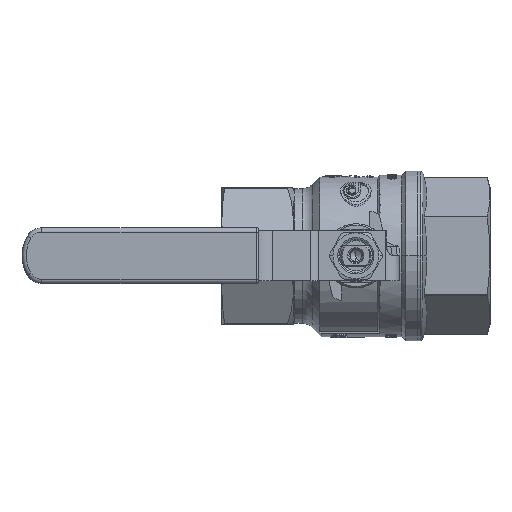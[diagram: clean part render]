
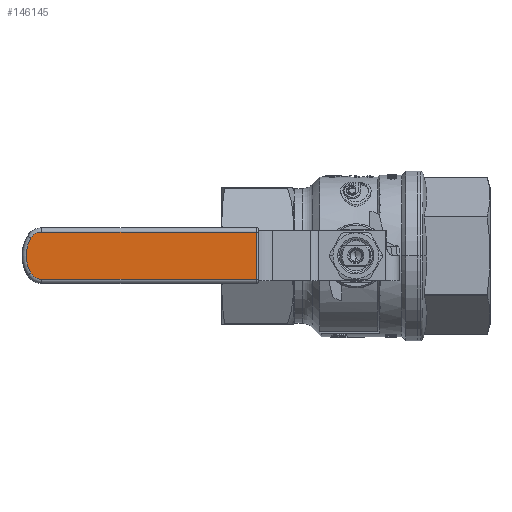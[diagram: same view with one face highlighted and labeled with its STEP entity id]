
A CAD part, top view. The second image highlights one B-rep face of the part: STEP entity #146145.
In plain terms, the highlighted planar face has unit normal (0, 0, 1).
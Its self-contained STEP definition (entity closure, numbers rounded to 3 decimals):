
#145166 = CYLINDRICAL_SURFACE('',#145167,0.7);
#145167 = AXIS2_PLACEMENT_3D('',#145168,#145169,#145170);
#145168 = CARTESIAN_POINT('',(-35.7,-17.915,44.35));
#145169 = DIRECTION('',(0.,-1.,0.));
#145170 = DIRECTION('',(0.,0.,1.));
#145666 = VERTEX_POINT('',#145667);
#145667 = CARTESIAN_POINT('',(-35.7,-18.05,45.05));
#145689 = EDGE_CURVE('',#145666,#145690,#145692,.T.);
#145690 = VERTEX_POINT('',#145691);
#145691 = CARTESIAN_POINT('',(-35.7,-35.05,45.05));
#145692 = SURFACE_CURVE('',#145693,(#145697,#145704),.PCURVE_S1.);
#145693 = LINE('',#145694,#145695);
#145694 = CARTESIAN_POINT('',(-35.7,-18.05,45.05));
#145695 = VECTOR('',#145696,1.);
#145696 = DIRECTION('',(0.,-1.,0.));
#145697 = PCURVE('',#145166,#145698);
#145698 = DEFINITIONAL_REPRESENTATION('',(#145699),#145703);
#145699 = LINE('',#145700,#145701);
#145700 = CARTESIAN_POINT('',(6.283,0.135));
#145701 = VECTOR('',#145702,1.);
#145702 = DIRECTION('',(0.,1.));
#145703 = ( GEOMETRIC_REPRESENTATION_CONTEXT(2) 
PARAMETRIC_REPRESENTATION_CONTEXT() REPRESENTATION_CONTEXT('2D SPACE',''
  ) );
#145704 = PCURVE('',#145705,#145710);
#145705 = PLANE('',#145706);
#145706 = AXIS2_PLACEMENT_3D('',#145707,#145708,#145709);
#145707 = CARTESIAN_POINT('',(-120.,-16.55,45.05));
#145708 = DIRECTION('',(0.,0.,1.));
#145709 = DIRECTION('',(0.,-1.,0.));
#145710 = DEFINITIONAL_REPRESENTATION('',(#145711),#145715);
#145711 = LINE('',#145712,#145713);
#145712 = CARTESIAN_POINT('',(1.5,84.3));
#145713 = VECTOR('',#145714,1.);
#145714 = DIRECTION('',(1.,0.));
#145715 = ( GEOMETRIC_REPRESENTATION_CONTEXT(2) 
PARAMETRIC_REPRESENTATION_CONTEXT() REPRESENTATION_CONTEXT('2D SPACE',''
  ) );
#145761 = CYLINDRICAL_SURFACE('',#145762,1.5);
#145762 = AXIS2_PLACEMENT_3D('',#145763,#145764,#145765);
#145763 = CARTESIAN_POINT('',(-113.045,-35.05,
    43.55));
#145764 = DIRECTION('',(1.,0.,0.));
#145765 = DIRECTION('',(0.,-1.,0.));
#146055 = TOROIDAL_SURFACE('',#146056,4.5,1.5);
#146056 = AXIS2_PLACEMENT_3D('',#146057,#146058,#146059);
#146057 = CARTESIAN_POINT('',(-112.928,-30.55,
    43.55));
#146058 = DIRECTION('',(0.,0.,-1.));
#146059 = DIRECTION('',(-0.882,-0.472,
    0.));
#146071 = VERTEX_POINT('',#146072);
#146072 = CARTESIAN_POINT('',(-116.825,-32.8,
    45.05));
#146087 = TOROIDAL_SURFACE('',#146088,12.5,1.5);
#146088 = AXIS2_PLACEMENT_3D('',#146089,#146090,#146091);
#146089 = CARTESIAN_POINT('',(-106.,-26.55,43.55));
#146090 = DIRECTION('',(0.,0.,1.));
#146091 = DIRECTION('',(-0.861,0.508,0.
    ));
#146101 = VERTEX_POINT('',#146102);
#146102 = CARTESIAN_POINT('',(-112.928,-35.05,
    45.05));
#146124 = EDGE_CURVE('',#146071,#146101,#146125,.T.);
#146125 = SURFACE_CURVE('',#146126,(#146131,#146138),.PCURVE_S1.);
#146126 = CIRCLE('',#146127,4.5);
#146127 = AXIS2_PLACEMENT_3D('',#146128,#146129,#146130);
#146128 = CARTESIAN_POINT('',(-112.928,-30.55,
    45.05));
#146129 = DIRECTION('',(0.,0.,1.));
#146130 = DIRECTION('',(-0.866,-0.5,0.));
#146131 = PCURVE('',#146055,#146132);
#146132 = DEFINITIONAL_REPRESENTATION('',(#146133),#146137);
#146133 = LINE('',#146134,#146135);
#146134 = CARTESIAN_POINT('',(6.251,4.712));
#146135 = VECTOR('',#146136,1.);
#146136 = DIRECTION('',(-1.,0.));
#146137 = ( GEOMETRIC_REPRESENTATION_CONTEXT(2) 
PARAMETRIC_REPRESENTATION_CONTEXT() REPRESENTATION_CONTEXT('2D SPACE',''
  ) );
#146138 = PCURVE('',#145705,#146139);
#146139 = DEFINITIONAL_REPRESENTATION('',(#146140),#146144);
#146140 = CIRCLE('',#146141,4.5);
#146141 = AXIS2_PLACEMENT_2D('',#146142,#146143);
#146142 = CARTESIAN_POINT('',(14.,7.072));
#146143 = DIRECTION('',(0.5,-0.866));
#146144 = ( GEOMETRIC_REPRESENTATION_CONTEXT(2) 
PARAMETRIC_REPRESENTATION_CONTEXT() REPRESENTATION_CONTEXT('2D SPACE',''
  ) );
#146145 = ADVANCED_FACE('',(#146146),#145705,.T.);
#146146 = FACE_BOUND('',#146147,.T.);
#146147 = EDGE_LOOP('',(#146148,#146176,#146205,#146227,#146228,#146249)
  );
#146148 = ORIENTED_EDGE('',*,*,#146149,.T.);
#146149 = EDGE_CURVE('',#145666,#146150,#146152,.T.);
#146150 = VERTEX_POINT('',#146151);
#146151 = CARTESIAN_POINT('',(-112.928,-18.05,
    45.05));
#146152 = SURFACE_CURVE('',#146153,(#146157,#146164),.PCURVE_S1.);
#146153 = LINE('',#146154,#146155);
#146154 = CARTESIAN_POINT('',(-35.7,-18.05,45.05));
#146155 = VECTOR('',#146156,1.);
#146156 = DIRECTION('',(-1.,0.,0.));
#146157 = PCURVE('',#145705,#146158);
#146158 = DEFINITIONAL_REPRESENTATION('',(#146159),#146163);
#146159 = LINE('',#146160,#146161);
#146160 = CARTESIAN_POINT('',(1.5,84.3));
#146161 = VECTOR('',#146162,1.);
#146162 = DIRECTION('',(0.,-1.));
#146163 = ( GEOMETRIC_REPRESENTATION_CONTEXT(2) 
PARAMETRIC_REPRESENTATION_CONTEXT() REPRESENTATION_CONTEXT('2D SPACE',''
  ) );
#146164 = PCURVE('',#146165,#146170);
#146165 = CYLINDRICAL_SURFACE('',#146166,1.5);
#146166 = AXIS2_PLACEMENT_3D('',#146167,#146168,#146169);
#146167 = CARTESIAN_POINT('',(-34.863,-18.05,
    43.55));
#146168 = DIRECTION('',(-1.,0.,0.));
#146169 = DIRECTION('',(0.,1.,0.));
#146170 = DEFINITIONAL_REPRESENTATION('',(#146171),#146175);
#146171 = LINE('',#146172,#146173);
#146172 = CARTESIAN_POINT('',(4.712,0.837));
#146173 = VECTOR('',#146174,1.);
#146174 = DIRECTION('',(0.,1.));
#146175 = ( GEOMETRIC_REPRESENTATION_CONTEXT(2) 
PARAMETRIC_REPRESENTATION_CONTEXT() REPRESENTATION_CONTEXT('2D SPACE',''
  ) );
#146176 = ORIENTED_EDGE('',*,*,#146177,.T.);
#146177 = EDGE_CURVE('',#146150,#146178,#146180,.T.);
#146178 = VERTEX_POINT('',#146179);
#146179 = CARTESIAN_POINT('',(-116.825,-20.3,
    45.05));
#146180 = SURFACE_CURVE('',#146181,(#146186,#146193),.PCURVE_S1.);
#146181 = CIRCLE('',#146182,4.5);
#146182 = AXIS2_PLACEMENT_3D('',#146183,#146184,#146185);
#146183 = CARTESIAN_POINT('',(-112.928,-22.55,
    45.05));
#146184 = DIRECTION('',(0.,0.,1.));
#146185 = DIRECTION('',(0.,1.,0.));
#146186 = PCURVE('',#145705,#146187);
#146187 = DEFINITIONAL_REPRESENTATION('',(#146188),#146192);
#146188 = CIRCLE('',#146189,4.5);
#146189 = AXIS2_PLACEMENT_2D('',#146190,#146191);
#146190 = CARTESIAN_POINT('',(6.,7.072));
#146191 = DIRECTION('',(-1.,0.));
#146192 = ( GEOMETRIC_REPRESENTATION_CONTEXT(2) 
PARAMETRIC_REPRESENTATION_CONTEXT() REPRESENTATION_CONTEXT('2D SPACE',''
  ) );
#146193 = PCURVE('',#146194,#146199);
#146194 = TOROIDAL_SURFACE('',#146195,4.5,1.5);
#146195 = AXIS2_PLACEMENT_3D('',#146196,#146197,#146198);
#146196 = CARTESIAN_POINT('',(-112.928,-22.55,
    43.55));
#146197 = DIRECTION('',(0.,0.,1.));
#146198 = DIRECTION('',(0.022,1.,
    0.));
#146199 = DEFINITIONAL_REPRESENTATION('',(#146200),#146204);
#146200 = LINE('',#146201,#146202);
#146201 = CARTESIAN_POINT('',(0.022,1.571));
#146202 = VECTOR('',#146203,1.);
#146203 = DIRECTION('',(1.,0.));
#146204 = ( GEOMETRIC_REPRESENTATION_CONTEXT(2) 
PARAMETRIC_REPRESENTATION_CONTEXT() REPRESENTATION_CONTEXT('2D SPACE',''
  ) );
#146205 = ORIENTED_EDGE('',*,*,#146206,.T.);
#146206 = EDGE_CURVE('',#146178,#146071,#146207,.T.);
#146207 = SURFACE_CURVE('',#146208,(#146213,#146220),.PCURVE_S1.);
#146208 = CIRCLE('',#146209,12.5);
#146209 = AXIS2_PLACEMENT_3D('',#146210,#146211,#146212);
#146210 = CARTESIAN_POINT('',(-106.,-26.55,45.05));
#146211 = DIRECTION('',(0.,0.,1.));
#146212 = DIRECTION('',(-0.866,0.5,0.));
#146213 = PCURVE('',#145705,#146214);
#146214 = DEFINITIONAL_REPRESENTATION('',(#146215),#146219);
#146215 = CIRCLE('',#146216,12.5);
#146216 = AXIS2_PLACEMENT_2D('',#146217,#146218);
#146217 = CARTESIAN_POINT('',(10.,14.));
#146218 = DIRECTION('',(-0.5,-0.866));
#146219 = ( GEOMETRIC_REPRESENTATION_CONTEXT(2) 
PARAMETRIC_REPRESENTATION_CONTEXT() REPRESENTATION_CONTEXT('2D SPACE',''
  ) );
#146220 = PCURVE('',#146087,#146221);
#146221 = DEFINITIONAL_REPRESENTATION('',(#146222),#146226);
#146222 = LINE('',#146223,#146224);
#146223 = CARTESIAN_POINT('',(0.01,1.571));
#146224 = VECTOR('',#146225,1.);
#146225 = DIRECTION('',(1.,0.));
#146226 = ( GEOMETRIC_REPRESENTATION_CONTEXT(2) 
PARAMETRIC_REPRESENTATION_CONTEXT() REPRESENTATION_CONTEXT('2D SPACE',''
  ) );
#146227 = ORIENTED_EDGE('',*,*,#146124,.T.);
#146228 = ORIENTED_EDGE('',*,*,#146229,.T.);
#146229 = EDGE_CURVE('',#146101,#145690,#146230,.T.);
#146230 = SURFACE_CURVE('',#146231,(#146235,#146242),.PCURVE_S1.);
#146231 = LINE('',#146232,#146233);
#146232 = CARTESIAN_POINT('',(-112.928,-35.05,
    45.05));
#146233 = VECTOR('',#146234,1.);
#146234 = DIRECTION('',(1.,0.,0.));
#146235 = PCURVE('',#145705,#146236);
#146236 = DEFINITIONAL_REPRESENTATION('',(#146237),#146241);
#146237 = LINE('',#146238,#146239);
#146238 = CARTESIAN_POINT('',(18.5,7.072));
#146239 = VECTOR('',#146240,1.);
#146240 = DIRECTION('',(0.,1.));
#146241 = ( GEOMETRIC_REPRESENTATION_CONTEXT(2) 
PARAMETRIC_REPRESENTATION_CONTEXT() REPRESENTATION_CONTEXT('2D SPACE',''
  ) );
#146242 = PCURVE('',#145761,#146243);
#146243 = DEFINITIONAL_REPRESENTATION('',(#146244),#146248);
#146244 = LINE('',#146245,#146246);
#146245 = CARTESIAN_POINT('',(4.712,0.117));
#146246 = VECTOR('',#146247,1.);
#146247 = DIRECTION('',(0.,1.));
#146248 = ( GEOMETRIC_REPRESENTATION_CONTEXT(2) 
PARAMETRIC_REPRESENTATION_CONTEXT() REPRESENTATION_CONTEXT('2D SPACE',''
  ) );
#146249 = ORIENTED_EDGE('',*,*,#145689,.F.);
